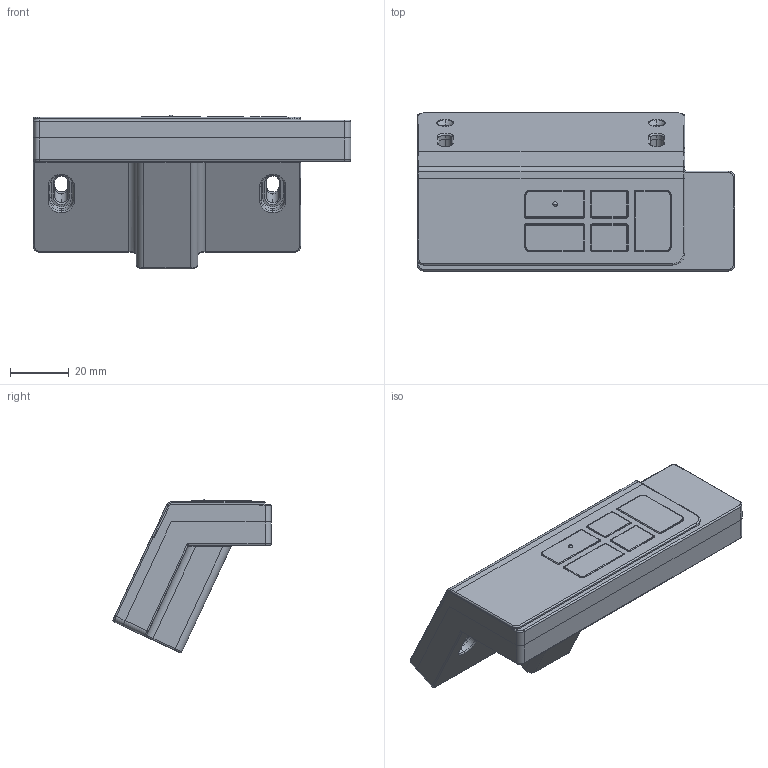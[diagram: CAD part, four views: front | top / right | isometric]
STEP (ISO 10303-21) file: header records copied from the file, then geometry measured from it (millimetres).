
FILE_DESCRIPTION (( 'STEP AP203' ), '1' );
FILE_NAME ('TDH18P.STEP', '2018-09-04T10:52:31', ( '' ), ( '' ), 'SwSTEP 2.0', 'SolidWorks 2015', '' );
FILE_SCHEMA (( 'CONFIG_CONTROL_DESIGN' ));
Length unit declared in the file: millimetre
Products named in the file (4): TDH12_B_外層; TDH12_B內層2; TDH12_B內層; TDH18P
Assembly tree (3 placements, depth 2):
  TDH18P
    TDH12_B_外層
    TDH12_B內層2
    TDH12_B內層
Bounding box: 108 x 53.85 x 52.25 mm (x, y, z)
Volume: 42025.8 mm3; surface area: 51776.3 mm2
Topology: 4 solids, 4 shells, 1813 faces, 4783 edges, 2976 vertices
Faces by surface type: plane 952, cylinder 592, torus 130, sphere 56, cone 48, bspline 35
Entity records: 56523 total; most frequent: CARTESIAN_POINT 10982, DIRECTION 9522, ORIENTED_EDGE 9468, EDGE_CURVE 4734, VECTOR 3226, LINE 3226, AXIS2_PLACEMENT_3D 3148, VERTEX_POINT 2973
